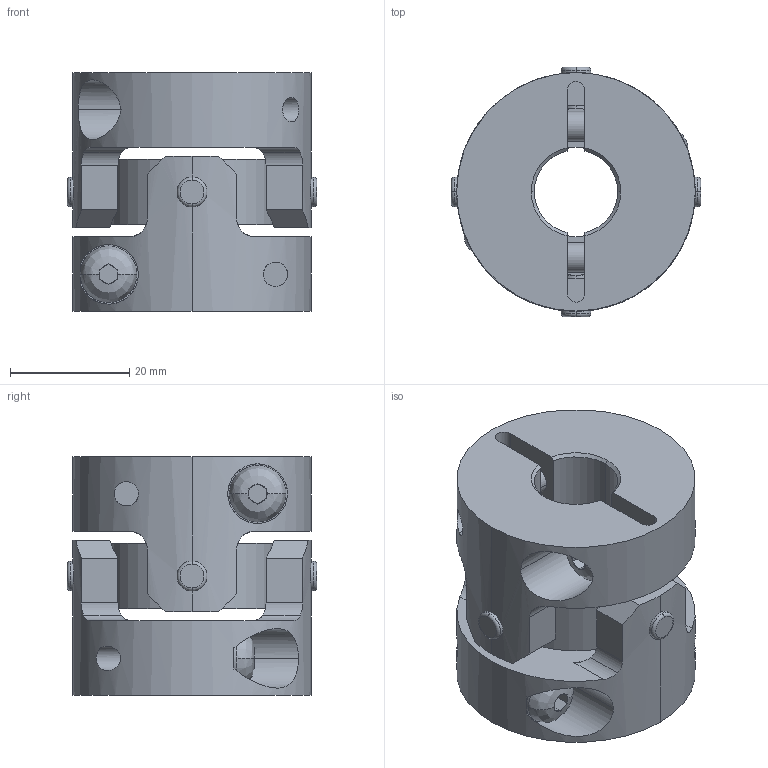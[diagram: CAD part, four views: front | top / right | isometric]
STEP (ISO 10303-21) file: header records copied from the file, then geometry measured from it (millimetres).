
FILE_DESCRIPTION((''),'2;1');
FILE_NAME('UA-40C-14×17.stp','2013-11-19T08:22:04',(''),(''),'AutoCAD STEP 2000i','AutoCAD 2000i',', , ');
FILE_SCHEMA(('CONFIG_CONTROL_DESIGN'));
Length unit declared in the file: millimetre
Products named in the file (7): UA-40C-8×18; 忣兜1; UA-4002-D18; BTN-M5; UA-4002-D08-1; UA-4002-D08; UA40-SEN
Assembly tree (8 placements, depth 3):
  UA-40C-8×18
    忣兜1
    UA-4002-D18
      BTN-M5
    UA-4002-D08-1
      BTN-M5
    UA-4002-D08
      BTN-M5
    UA40-SEN
Bounding box: 41.81 x 41.81 x 40 mm (x, y, z)
Volume: 32694.9 mm3; surface area: 15163.6 mm2
Topology: 1 solids, 1 shells, 252 faces, 654 edges, 412 vertices
Faces by surface type: plane 124, cylinder 96, cone 16, bspline 8, torus 8
Entity records: 9705 total; most frequent: CARTESIAN_POINT 3363, DIRECTION 1308, ORIENTED_EDGE 1308, EDGE_CURVE 654, AXIS2_PLACEMENT_3D 505, VERTEX_POINT 412, VECTOR 298, LINE 298
